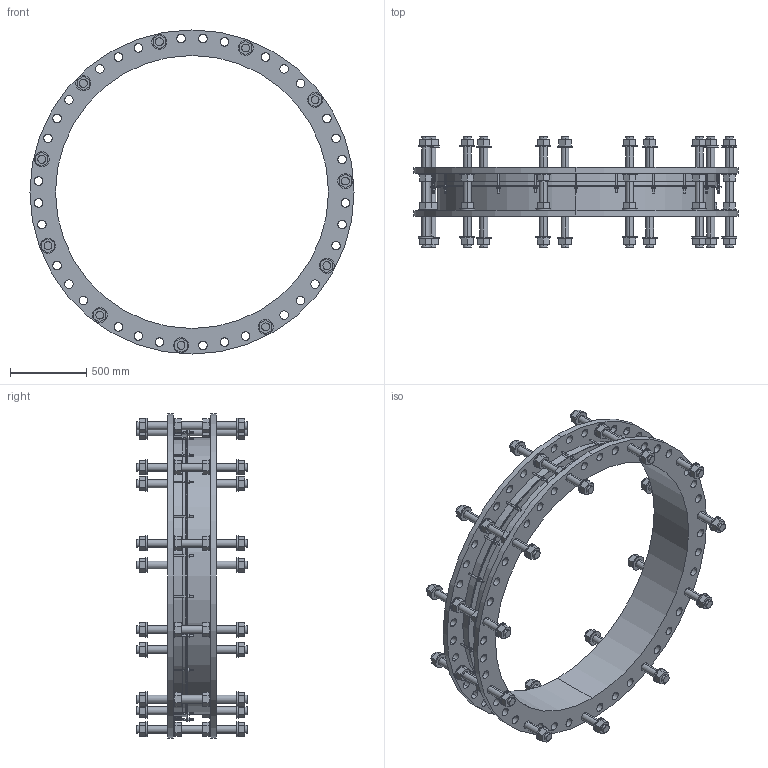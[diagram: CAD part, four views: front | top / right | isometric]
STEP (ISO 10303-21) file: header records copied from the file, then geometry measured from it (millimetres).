
FILE_DESCRIPTION((''),'2;1');
FILE_NAME('A2E_DJ_BIM_ASM','2020-11-30T',('mfairey'),('Glynwed Pipe Systems'),'CREO PARAMETRIC BY PTC INC, 2016130','CREO PARAMETRIC BY PTC INC, 2016130','');
FILE_SCHEMA(('CONFIG_CONTROL_DESIGN'));
Length unit declared in the file: millimetre
Products named in the file (3): DJ_AF0; TIE_BOLT_BIM; A2E_DJ_BIM_ASM
Assembly tree (12 placements, depth 2):
  A2E_DJ_BIM_ASM
    DJ_AF0
    TIE_BOLT_BIM  x11
Bounding box: 2130 x 730 x 2130 mm (x, y, z)
Volume: 120615053.1 mm3; surface area: 10465132.9 mm2
Topology: 12 solids, 12 shells, 1166 faces, 2844 edges, 1880 vertices
Faces by surface type: plane 644, cylinder 518, cone 4
Entity records: 21020 total; most frequent: CARTESIAN_POINT 4881, DIRECTION 3502, ORIENTED_EDGE 3168, EDGE_CURVE 1584, AXIS2_PLACEMENT_3D 1345, VERTEX_POINT 1040, EDGE_LOOP 886, VECTOR 812
